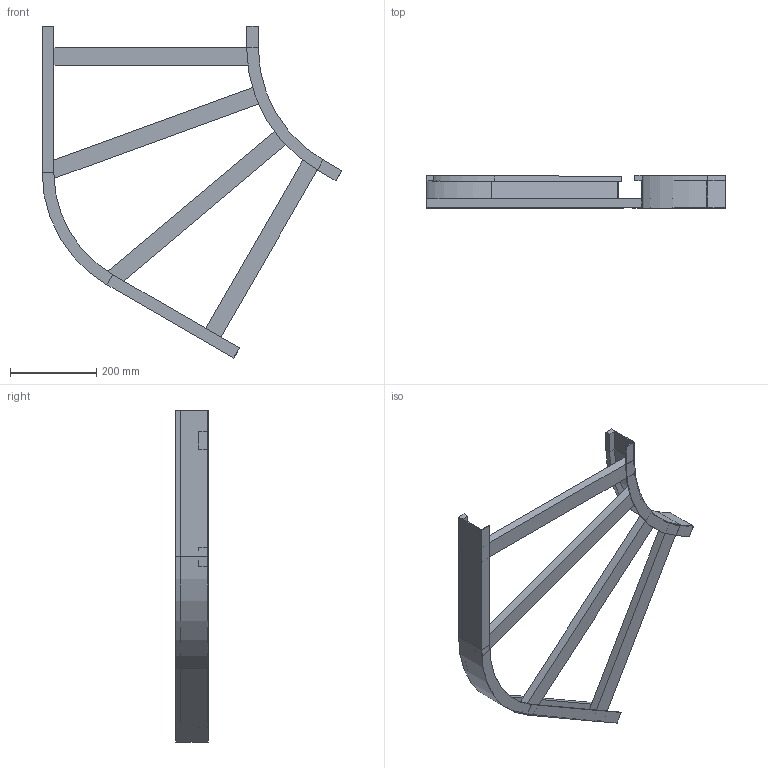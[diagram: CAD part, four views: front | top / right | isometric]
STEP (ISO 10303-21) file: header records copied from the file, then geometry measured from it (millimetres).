
FILE_DESCRIPTION (( 'STEP AP214' ), '1' );
FILE_NAME ('B2_13B3C500.step', '2025-02-21T15:21:50', ( '' ), ( '' ), 'SwSTEP 2.0', 'SolidWorks 2023', '' );
FILE_SCHEMA (( 'AUTOMOTIVE_DESIGN' ));
Length unit declared in the file: millimetre
Products named in the file (5): B2_LONGH.ESTERNO 60°_H75_R300+500; TRAVERSINO_500; B2_13B3C500; TRAVERSINO_600_SCANTONATO; B2_LONGH.INTERNO 60°_H75_R300
Assembly tree (6 placements, depth 2):
  B2_13B3C500
    B2_LONGH.INTERNO 60°_H75_R300
    B2_LONGH.ESTERNO 60°_H75_R300+500
    TRAVERSINO_500  x2
    TRAVERSINO_600_SCANTONATO  x2
Bounding box: 693.3 x 75 x 767.82 mm (x, y, z)
Volume: 2239872.2 mm3; surface area: 592152.2 mm2
Topology: 6 solids, 6 shells, 76 faces, 160 edges, 96 vertices
Faces by surface type: plane 68, cylinder 8
Entity records: 1830 total; most frequent: DIRECTION 298, CARTESIAN_POINT 289, ORIENTED_EDGE 272, EDGE_CURVE 136, VECTOR 120, LINE 120, AXIS2_PLACEMENT_3D 89, VERTEX_POINT 80
